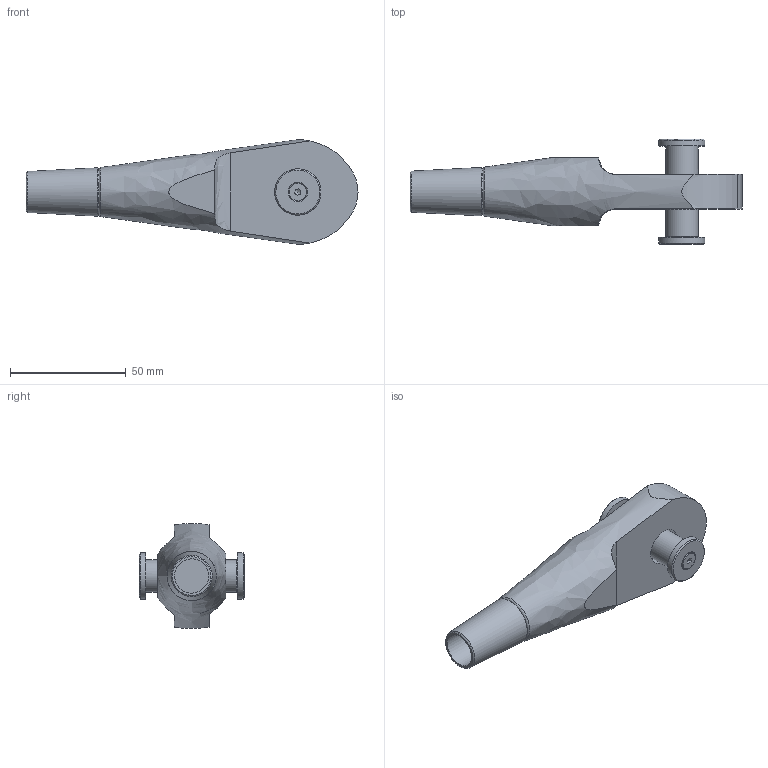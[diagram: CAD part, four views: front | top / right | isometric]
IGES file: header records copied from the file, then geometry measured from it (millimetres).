
Global section: file name: 520-014-OES; native system: Autodesk Inventor 2016; preprocessor: unknown; author: Administrator; date: 20200626.100942; units: centimetre
Bounding box: 143.5 x 45.78 x 45.17 mm (x, y, z)
Volume: 76257.1 mm3; surface area: 18375 mm2
Topology: 2 solids, 3 shells, 49 faces, 119 edges, 81 vertices
Faces by surface type: bspline 49
